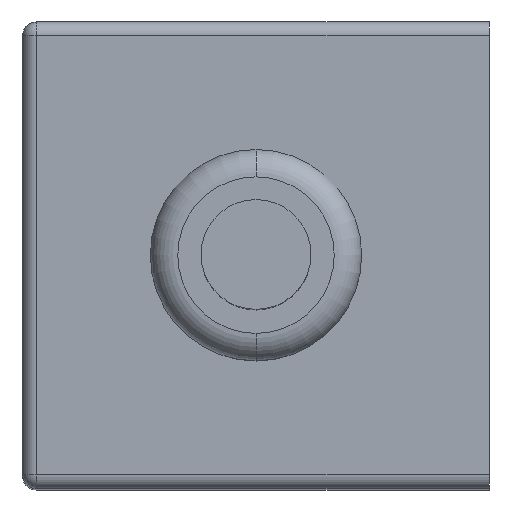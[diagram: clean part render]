
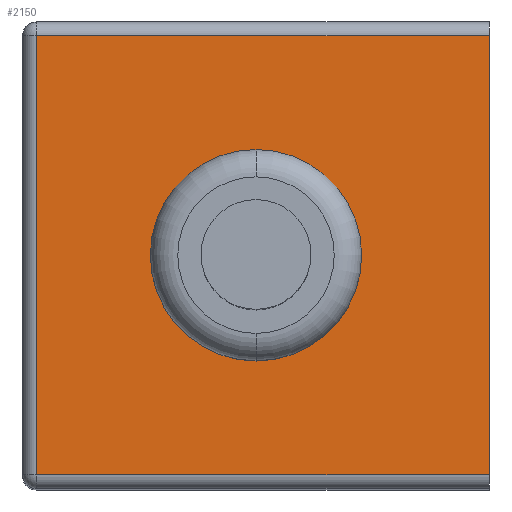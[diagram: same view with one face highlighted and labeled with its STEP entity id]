
A CAD part, top view. The second image highlights one B-rep face of the part: STEP entity #2150.
In plain terms, the highlighted planar face has unit normal (0, 0, 1).
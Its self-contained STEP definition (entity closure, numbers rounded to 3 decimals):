
#168=DIRECTION('',(0.,1.,0.));
#169=VECTOR('',#168,16.);
#170=CARTESIAN_POINT('',(8.5,-8.,14.));
#171=LINE('',#170,#169);
#642=DIRECTION('',(1.,0.,0.));
#643=VECTOR('',#642,16.5);
#644=CARTESIAN_POINT('',(-8.,8.,14.));
#645=LINE('',#644,#643);
#646=DIRECTION('',(-1.,0.,0.));
#647=VECTOR('',#646,16.5);
#648=CARTESIAN_POINT('',(8.5,-8.,14.));
#649=LINE('',#648,#647);
#650=DIRECTION('',(0.,-1.,0.));
#651=VECTOR('',#650,16.);
#652=CARTESIAN_POINT('',(-8.,8.,14.));
#653=LINE('',#652,#651);
#654=CARTESIAN_POINT('',(0.,0.,14.));
#655=DIRECTION('',(0.,0.,1.));
#656=DIRECTION('',(0.,1.,0.));
#657=AXIS2_PLACEMENT_3D('',#654,#655,#656);
#659=CARTESIAN_POINT('',(0.,0.,14.));
#660=DIRECTION('',(0.,0.,1.));
#661=DIRECTION('',(0.,-1.,0.));
#662=AXIS2_PLACEMENT_3D('',#659,#660,#661);
#1177=CARTESIAN_POINT('',(8.5,8.,14.));
#1179=VERTEX_POINT('',#1177);
#1180=CARTESIAN_POINT('',(-8.,8.,14.));
#1181=VERTEX_POINT('',#1180);
#1182=CARTESIAN_POINT('',(-8.,-8.,14.));
#1183=VERTEX_POINT('',#1182);
#1184=CARTESIAN_POINT('',(8.5,-8.,14.));
#1186=VERTEX_POINT('',#1184);
#1188=CARTESIAN_POINT('',(0.,3.85,14.));
#1189=CARTESIAN_POINT('',(0.,-3.85,14.));
#1190=VERTEX_POINT('',#1188);
#1191=VERTEX_POINT('',#1189);
#2131=CARTESIAN_POINT('',(-8.5,-8.5,14.));
#2132=DIRECTION('',(0.,0.,1.));
#2133=DIRECTION('',(1.,0.,0.));
#2134=AXIS2_PLACEMENT_3D('',#2131,#2132,#2133);
#2135=PLANE('',#2134);
#2136=ORIENTED_EDGE('',*,*,#2123,.T.);
#2137=ORIENTED_EDGE('',*,*,#1334,.F.);
#2139=ORIENTED_EDGE('',*,*,#2138,.T.);
#2141=ORIENTED_EDGE('',*,*,#2140,.F.);
#2142=EDGE_LOOP('',(#2136,#2137,#2139,#2141));
#2143=FACE_OUTER_BOUND('',#2142,.F.);
#2145=ORIENTED_EDGE('',*,*,#2144,.T.);
#2147=ORIENTED_EDGE('',*,*,#2146,.T.);
#2148=EDGE_LOOP('',(#2145,#2147));
#2149=FACE_BOUND('',#2148,.F.);
#658=CIRCLE('',#657,3.85);
#663=CIRCLE('',#662,3.85);
#1334=EDGE_CURVE('',#1186,#1179,#171,.T.);
#2123=EDGE_CURVE('',#1181,#1179,#645,.T.);
#2138=EDGE_CURVE('',#1186,#1183,#649,.T.);
#2140=EDGE_CURVE('',#1181,#1183,#653,.T.);
#2144=EDGE_CURVE('',#1190,#1191,#658,.T.);
#2146=EDGE_CURVE('',#1191,#1190,#663,.T.);
#2150=ADVANCED_FACE('',(#2143,#2149),#2135,.T.);
